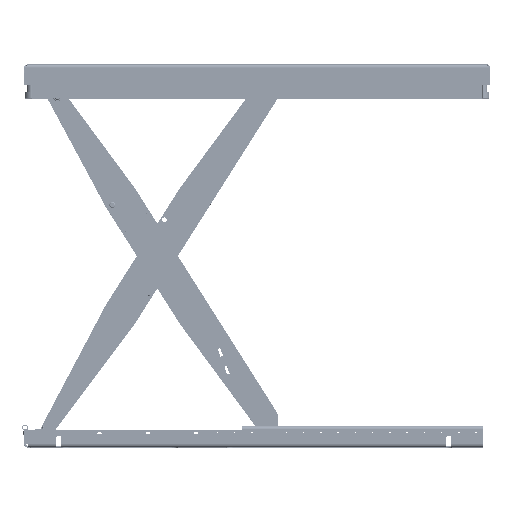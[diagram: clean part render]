
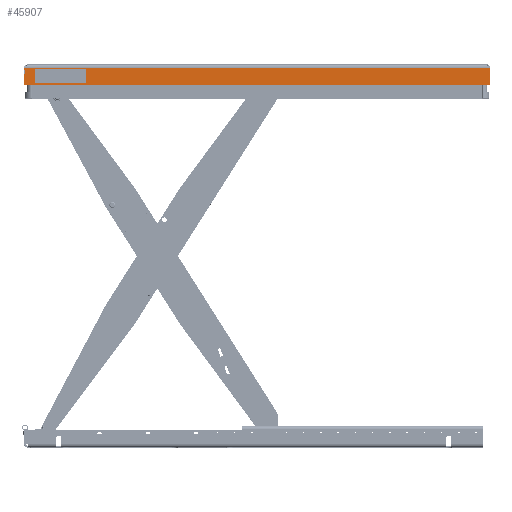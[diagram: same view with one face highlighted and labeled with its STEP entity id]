
A CAD part, top view. The second image highlights one B-rep face of the part: STEP entity #45907.
In plain terms, the highlighted planar face has unit normal (0, 0, 1) as drawn and (0, -1, 0) by its records, which use the part's own axes.
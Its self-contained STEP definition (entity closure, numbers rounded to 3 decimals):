
#2946=CIRCLE('',#49588,1.);
#2948=CIRCLE('',#49591,1.);
#2949=CIRCLE('',#49592,38.539);
#2950=CIRCLE('',#49593,1.);
#2951=CIRCLE('',#49594,1.);
#2952=CIRCLE('',#49595,1.);
#2953=CIRCLE('',#49596,1.);
#2954=CIRCLE('',#49597,38.539);
#2955=CIRCLE('',#49598,1.);
#2956=CIRCLE('',#49599,1.);
#5899=FACE_OUTER_BOUND('',#8780,.T.);
#8780=EDGE_LOOP('',(#32934,#32935,#32936,#32937,#32938,#32939,#32940,#32941,
#32942,#32943,#32944,#32945,#32946,#32947,#32948,#32949,#32950,#32951));
#12269=LINE('',#69662,#16391);
#12270=LINE('',#69670,#16392);
#12271=LINE('',#69674,#16393);
#12272=LINE('',#69676,#16394);
#12273=LINE('',#69678,#16395);
#12274=LINE('',#69682,#16396);
#12275=LINE('',#69690,#16397);
#12276=LINE('',#69693,#16398);
#16391=VECTOR('',#55954,10.);
#16392=VECTOR('',#55961,10.);
#16393=VECTOR('',#55964,10.);
#16394=VECTOR('',#55965,10.);
#16395=VECTOR('',#55966,10.);
#16396=VECTOR('',#55969,10.);
#16397=VECTOR('',#55976,10.);
#16398=VECTOR('',#55979,10.);
#20454=VERTEX_POINT('',#69652);
#20455=VERTEX_POINT('',#69653);
#20458=VERTEX_POINT('',#69661);
#20459=VERTEX_POINT('',#69663);
#20460=VERTEX_POINT('',#69665);
#20461=VERTEX_POINT('',#69667);
#20462=VERTEX_POINT('',#69669);
#20463=VERTEX_POINT('',#69671);
#20464=VERTEX_POINT('',#69673);
#20465=VERTEX_POINT('',#69675);
#20466=VERTEX_POINT('',#69677);
#20467=VERTEX_POINT('',#69679);
#20468=VERTEX_POINT('',#69681);
#20469=VERTEX_POINT('',#69683);
#20470=VERTEX_POINT('',#69685);
#20471=VERTEX_POINT('',#69687);
#20472=VERTEX_POINT('',#69689);
#20473=VERTEX_POINT('',#69691);
#25243=EDGE_CURVE('',#20454,#20455,#2946,.T.);
#25247=EDGE_CURVE('',#20458,#20454,#12269,.T.);
#25248=EDGE_CURVE('',#20459,#20458,#2948,.T.);
#25249=EDGE_CURVE('',#20459,#20460,#2949,.T.);
#25250=EDGE_CURVE('',#20461,#20460,#2950,.T.);
#25251=EDGE_CURVE('',#20462,#20461,#12270,.T.);
#25252=EDGE_CURVE('',#20462,#20463,#2951,.T.);
#25253=EDGE_CURVE('',#20463,#20464,#12271,.T.);
#25254=EDGE_CURVE('',#20464,#20465,#12272,.T.);
#25255=EDGE_CURVE('',#20465,#20466,#12273,.T.);
#25256=EDGE_CURVE('',#20466,#20467,#2952,.T.);
#25257=EDGE_CURVE('',#20468,#20467,#12274,.T.);
#25258=EDGE_CURVE('',#20469,#20468,#2953,.T.);
#25259=EDGE_CURVE('',#20469,#20470,#2954,.T.);
#25260=EDGE_CURVE('',#20471,#20470,#2955,.T.);
#25261=EDGE_CURVE('',#20472,#20471,#12275,.T.);
#25262=EDGE_CURVE('',#20473,#20472,#2956,.T.);
#25263=EDGE_CURVE('',#20455,#20473,#12276,.T.);
#32934=ORIENTED_EDGE('',*,*,#25243,.F.);
#32935=ORIENTED_EDGE('',*,*,#25247,.F.);
#32936=ORIENTED_EDGE('',*,*,#25248,.F.);
#32937=ORIENTED_EDGE('',*,*,#25249,.T.);
#32938=ORIENTED_EDGE('',*,*,#25250,.F.);
#32939=ORIENTED_EDGE('',*,*,#25251,.F.);
#32940=ORIENTED_EDGE('',*,*,#25252,.T.);
#32941=ORIENTED_EDGE('',*,*,#25253,.T.);
#32942=ORIENTED_EDGE('',*,*,#25254,.T.);
#32943=ORIENTED_EDGE('',*,*,#25255,.T.);
#32944=ORIENTED_EDGE('',*,*,#25256,.T.);
#32945=ORIENTED_EDGE('',*,*,#25257,.F.);
#32946=ORIENTED_EDGE('',*,*,#25258,.F.);
#32947=ORIENTED_EDGE('',*,*,#25259,.T.);
#32948=ORIENTED_EDGE('',*,*,#25260,.F.);
#32949=ORIENTED_EDGE('',*,*,#25261,.F.);
#32950=ORIENTED_EDGE('',*,*,#25262,.F.);
#32951=ORIENTED_EDGE('',*,*,#25263,.F.);
#44423=PLANE('',#49590);
#45907=ADVANCED_FACE('',(#5899),#44423,.F.);
#49588=AXIS2_PLACEMENT_3D('',#69654,#55946,#55947);
#49590=AXIS2_PLACEMENT_3D('',#69660,#55952,#55953);
#49591=AXIS2_PLACEMENT_3D('',#69664,#55955,#55956);
#49592=AXIS2_PLACEMENT_3D('',#69666,#55957,#55958);
#49593=AXIS2_PLACEMENT_3D('',#69668,#55959,#55960);
#49594=AXIS2_PLACEMENT_3D('',#69672,#55962,#55963);
#49595=AXIS2_PLACEMENT_3D('',#69680,#55967,#55968);
#49596=AXIS2_PLACEMENT_3D('',#69684,#55970,#55971);
#49597=AXIS2_PLACEMENT_3D('',#69686,#55972,#55973);
#49598=AXIS2_PLACEMENT_3D('',#69688,#55974,#55975);
#49599=AXIS2_PLACEMENT_3D('',#69692,#55977,#55978);
#55946=DIRECTION('center_axis',(0.,1.,0.));
#55947=DIRECTION('ref_axis',(-0.707,0.,0.707));
#55952=DIRECTION('center_axis',(0.,1.,0.));
#55953=DIRECTION('ref_axis',(1.,0.,0.));
#55954=DIRECTION('',(0.,0.,1.));
#55955=DIRECTION('center_axis',(0.,1.,0.));
#55956=DIRECTION('ref_axis',(-0.992,0.,-0.129));
#55957=DIRECTION('center_axis',(0.,1.,0.));
#55958=DIRECTION('ref_axis',(-0.966,0.,0.259));
#55959=DIRECTION('center_axis',(0.,1.,0.));
#55960=DIRECTION('ref_axis',(-0.992,0.,0.129));
#55961=DIRECTION('',(0.,0.,1.));
#55962=DIRECTION('center_axis',(0.,-1.,0.));
#55963=DIRECTION('ref_axis',(-1.,0.,0.));
#55964=DIRECTION('',(0.856,0.,-0.517));
#55965=DIRECTION('',(1.,0.,0.));
#55966=DIRECTION('',(0.856,0.,0.517));
#55967=DIRECTION('center_axis',(0.,-1.,0.));
#55968=DIRECTION('ref_axis',(1.,0.,0.));
#55969=DIRECTION('',(0.,0.,-1.));
#55970=DIRECTION('center_axis',(0.,1.,0.));
#55971=DIRECTION('ref_axis',(0.992,0.,0.129));
#55972=DIRECTION('center_axis',(0.,1.,0.));
#55973=DIRECTION('ref_axis',(0.966,0.,0.259));
#55974=DIRECTION('center_axis',(0.,1.,0.));
#55975=DIRECTION('ref_axis',(0.992,0.,-0.129));
#55976=DIRECTION('',(0.,0.,-1.));
#55977=DIRECTION('center_axis',(0.,1.,0.));
#55978=DIRECTION('ref_axis',(0.707,0.,0.707));
#55979=DIRECTION('',(1.,0.,0.));
#69652=CARTESIAN_POINT('',(-675.,-400.,59.));
#69653=CARTESIAN_POINT('',(-674.,-400.,60.));
#69654=CARTESIAN_POINT('Origin',(-674.,-400.,59.));
#69660=CARTESIAN_POINT('Origin',(0.,-400.,30.037));
#69661=CARTESIAN_POINT('',(-675.,-400.,33.021));
#69662=CARTESIAN_POINT('',(-675.,-400.,10.));
#69663=CARTESIAN_POINT('',(-674.967,-400.,32.765));
#69664=CARTESIAN_POINT('Origin',(-674.,-400.,33.021));
#69665=CARTESIAN_POINT('',(-674.967,-400.,13.015));
#69666=CARTESIAN_POINT('Origin',(-712.219,-400.,22.89));
#69667=CARTESIAN_POINT('',(-675.,-400.,12.759));
#69668=CARTESIAN_POINT('Origin',(-674.,-400.,12.759));
#69669=CARTESIAN_POINT('',(-675.,-400.,11.954));
#69670=CARTESIAN_POINT('',(-675.,-400.,10.));
#69671=CARTESIAN_POINT('',(-674.517,-400.,11.098));
#69672=CARTESIAN_POINT('Origin',(-674.,-400.,11.954));
#69673=CARTESIAN_POINT('',(-672.698,-400.,10.));
#69674=CARTESIAN_POINT('',(-430.653,-400.,-136.156));
#69675=CARTESIAN_POINT('',(672.698,-400.,10.));
#69676=CARTESIAN_POINT('',(0.,-400.,10.));
#69677=CARTESIAN_POINT('',(674.517,-400.,11.098));
#69678=CARTESIAN_POINT('',(430.653,-400.,-136.156));
#69679=CARTESIAN_POINT('',(675.,-400.,11.954));
#69680=CARTESIAN_POINT('Origin',(674.,-400.,11.954));
#69681=CARTESIAN_POINT('',(675.,-400.,12.759));
#69682=CARTESIAN_POINT('',(675.,-400.,10.));
#69683=CARTESIAN_POINT('',(674.967,-400.,13.015));
#69684=CARTESIAN_POINT('Origin',(674.,-400.,12.759));
#69685=CARTESIAN_POINT('',(674.967,-400.,32.765));
#69686=CARTESIAN_POINT('Origin',(712.219,-400.,22.89));
#69687=CARTESIAN_POINT('',(675.,-400.,33.021));
#69688=CARTESIAN_POINT('Origin',(674.,-400.,33.021));
#69689=CARTESIAN_POINT('',(675.,-400.,59.));
#69690=CARTESIAN_POINT('',(675.,-400.,10.));
#69691=CARTESIAN_POINT('',(674.,-400.,60.));
#69692=CARTESIAN_POINT('Origin',(674.,-400.,59.));
#69693=CARTESIAN_POINT('',(-675.,-400.,60.));
